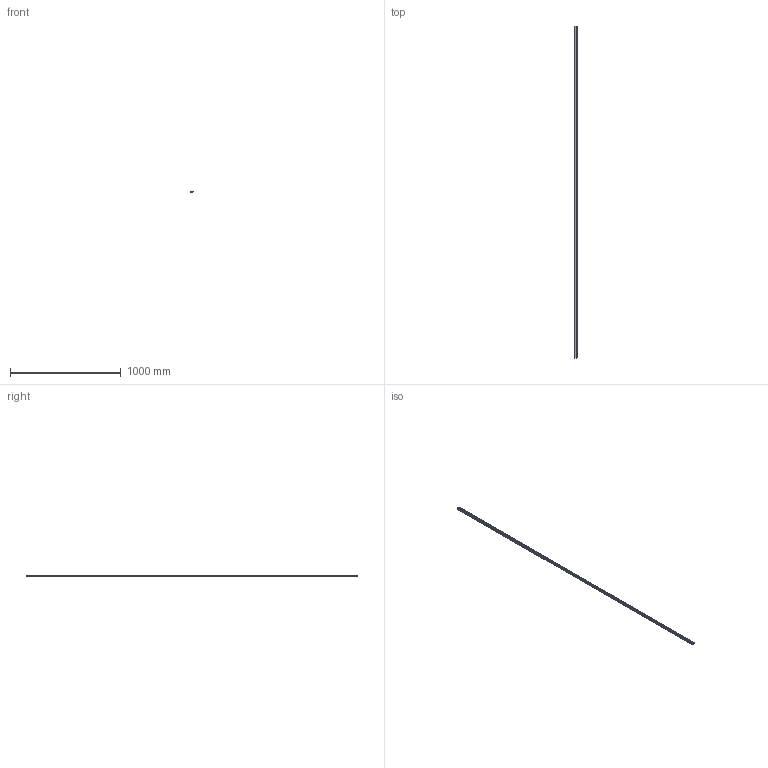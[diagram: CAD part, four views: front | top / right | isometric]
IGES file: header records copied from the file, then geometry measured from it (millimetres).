
Start section: Data from Parasolid IGES Translator 20.0.26, Copyright(c) 2006 Siemens P LM Software. All Rights Reserved.
Global section: file name: 9298794.igs; native system: By Siemens PLM Incorporated; preprocessor: XPlus GENERIC/IGES 20.0.26; author: Noname; organization: Noname; date: 20210826.180808; units: millimetre
Bounding box: 23 x 3000 x 18 mm (x, y, z)
Surface area: 472059 mm2 (no closed solid volume)
Topology: 0 solids, 0 shells, 46 faces, 264 edges, 264 vertices
Faces by surface type: extrusion 46
